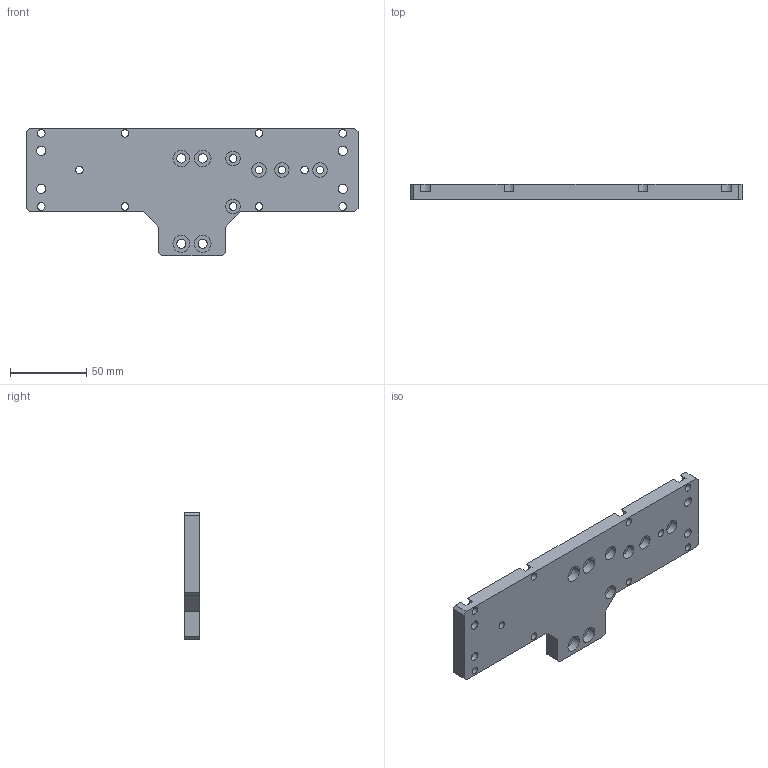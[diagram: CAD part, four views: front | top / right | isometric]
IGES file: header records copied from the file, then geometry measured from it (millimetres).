
Start section:  PTC IGES file: h90-k60m-tp.igs
Global section: file name: h90-k60m-tp.igs; native system: Pro/ENGINEER by Parametric Technology Corporation; preprocessor: 2008230; author: Owner; organization: Unknown; date: 20121211.134315; units: millimetre
Bounding box: 218 x 10 x 84 mm (x, y, z)
Surface area: 36658.5 mm2 (no closed solid volume)
Topology: 0 solids, 0 shells, 125 faces, 648 edges, 648 vertices
Faces by surface type: revolution 84, bspline 41
